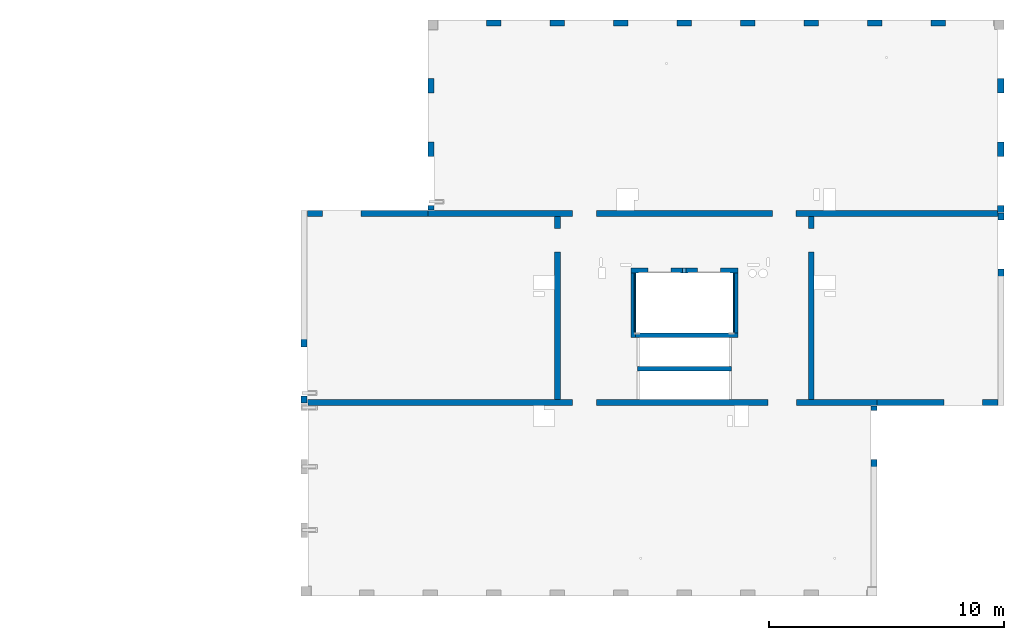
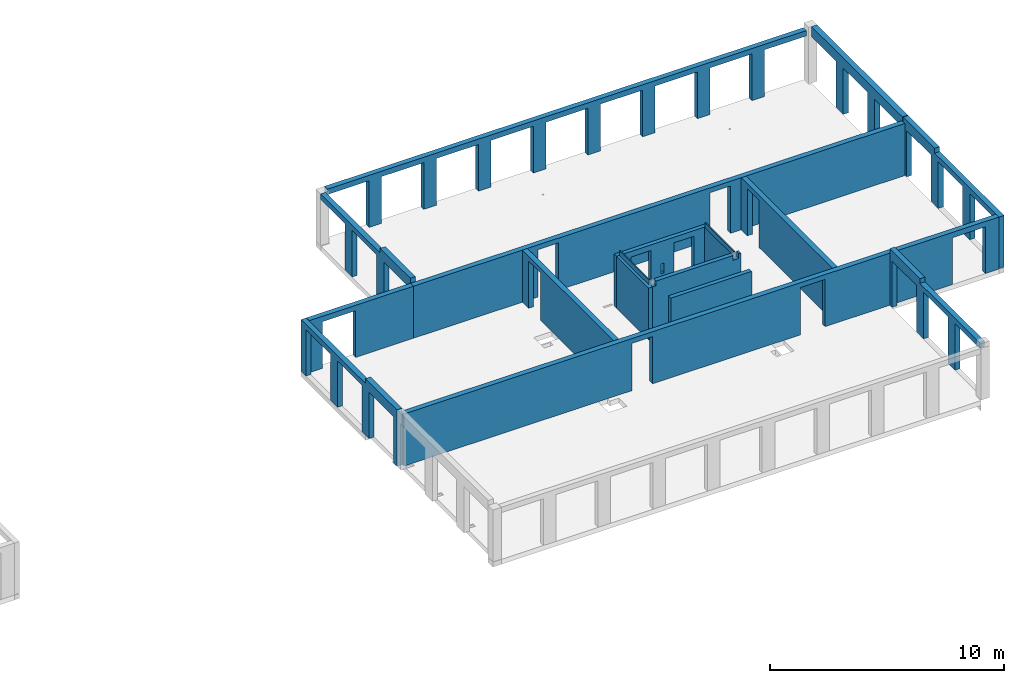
# One storey, part 4 of 8: 19 walls, 42 openings.
"""IFC2X3 building model written with IfcOpenShell, lengths in millimetres."""

from ifc_helpers import new_model, entity, si_unit, converted_unit, derived_unit, direction, frame, frame_2d, origin, place, context, subcontext, project, spatial, rectangle, extrude, material, layer, layer_set, layer_usage, type_object, element, save


model = new_model("IFC2X3")

# Units and contexts
model_context = context("Model", 3, precision=0.01, world=origin(), true_north=direction((6.12303176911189e-17, 1.0)))
body_context = subcontext(model_context, "Body", "Model", "MODEL_VIEW")
ifc_project = project(units=[si_unit("LENGTHUNIT", "METRE", prefix="MILLI"), si_unit("AREAUNIT", "SQUARE_METRE"), si_unit("VOLUMEUNIT", "CUBIC_METRE"), converted_unit("PLANEANGLEUNIT", "DEGREE", entity("IfcRatioMeasure", 0.0174532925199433), si_unit("PLANEANGLEUNIT", "RADIAN"), dimensions=[0, 0, 0, 0, 0, 0, 0]), si_unit("MASSUNIT", "GRAM", prefix="KILO"), derived_unit("MASSDENSITYUNIT", [(si_unit("MASSUNIT", "GRAM", prefix="KILO"), 1), (si_unit("LENGTHUNIT", "METRE"), -3)]), si_unit("TIMEUNIT", "SECOND"), si_unit("FREQUENCYUNIT", "HERTZ"), si_unit("THERMODYNAMICTEMPERATUREUNIT", "DEGREE_CELSIUS"), derived_unit("THERMALTRANSMITTANCEUNIT", [(si_unit("MASSUNIT", "GRAM", prefix="KILO"), 1), (si_unit("THERMODYNAMICTEMPERATUREUNIT", "KELVIN"), -1), (si_unit("TIMEUNIT", "SECOND"), -3)]), derived_unit("VOLUMETRICFLOWRATEUNIT", [(si_unit("LENGTHUNIT", "METRE"), 3), (si_unit("TIMEUNIT", "SECOND"), -1)]), si_unit("ELECTRICCURRENTUNIT", "AMPERE"), si_unit("ELECTRICVOLTAGEUNIT", "VOLT"), si_unit("POWERUNIT", "WATT"), si_unit("FORCEUNIT", "NEWTON", prefix="KILO"), si_unit("ILLUMINANCEUNIT", "LUX"), si_unit("LUMINOUSFLUXUNIT", "LUMEN"), si_unit("LUMINOUSINTENSITYUNIT", "CANDELA"), derived_unit("USERDEFINED", [(si_unit("MASSUNIT", "GRAM", prefix="KILO"), -1), (si_unit("LENGTHUNIT", "METRE"), -2), (si_unit("TIMEUNIT", "SECOND"), 3), (si_unit("LUMINOUSFLUXUNIT", "LUMEN"), 1)]), derived_unit("LINEARVELOCITYUNIT", [(si_unit("LENGTHUNIT", "METRE"), 1), (si_unit("TIMEUNIT", "SECOND"), -1)]), si_unit("PRESSUREUNIT", "PASCAL"), derived_unit("USERDEFINED", [(si_unit("LENGTHUNIT", "METRE"), -2), (si_unit("MASSUNIT", "GRAM", prefix="KILO"), 1), (si_unit("TIMEUNIT", "SECOND"), -2)])], contexts=[model_context])

# Site, building, storey
site_placement = place(None, origin())
site = spatial("IfcSite", under=ifc_project, at=site_placement, Name="Default", CompositionType="ELEMENT")
building_placement = place(site_placement, origin())
building = spatial("IfcBuilding", under=site, at=building_placement, Name="niet gebruiken", CompositionType="ELEMENT")
storey_placement = place(building_placement, frame((0.0, 0.0, 39330.0)))
storey = spatial("IfcBuildingStorey", under=building, at=storey_placement, Name="13 dertiende verdieping", CompositionType="ELEMENT", Elevation=39330.0)

# Wall, openings
ifc_material_1 = material(Name="NLRS_f2_beton ihwg")
ifc_layer_1 = layer(ifc_material_1, 250.0)
ifc_layer_set_1 = layer_set([ifc_layer_1], Name="Basic Wall:NLRS_22.21_WA_beton ihwg d=250_gen")
ifc_layer_usage_1 = layer_usage(ifc_layer_set_1, "AXIS2", "NEGATIVE", 125.0)
wall_type_1 = type_object("IfcWallType", Name="Basic Wall:NLRS_22.21_WA_beton ihwg d=250_gen", PredefinedType="STANDARD", material=ifc_layer_set_1)
wall_1_placement = place(storey_placement, frame((75770.0, 36981.0, -90.0)))
wall_1 = element("IfcWallStandardCase", 1, at=wall_1_placement, inside=storey, type_object=wall_type_1, material=ifc_layer_usage_1, Name="Basic Wall:NLRS_22.21_WA_beton ihwg d=250_gen", ObjectType="Basic Wall:NLRS_22.21_WA_beton ihwg d=250_gen", context=body_context, shape_type="SweptSolid", body=[
    extrude(rectangle(XDim=24230.0000000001, YDim=250.000000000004, at=frame_2d((12115.0, 0.0), x_axis=(-1.0, 0.0))), origin(), (0.0, 0.0, 1.0), 2719.99999999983),
])
opening_1_placement = place(wall_1_placement, origin())
element("IfcOpeningElement", 2, at=opening_1_placement, cuts=wall_1, Name="Basic Wall:NLRS_22.21_WA_beton ihwg d=250_gen", ObjectType="Opening", context=body_context, shape_type="SweptSolid", body=[
    extrude(rectangle(XDim=2470.0, YDim=1225.0, at=frame_2d((-8.69704308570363e-12, 4.43378667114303e-12), x_axis=(0.0, 1.0))), frame((20192.5000000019, -1399.0, 1235.0), z_axis=(0.0, 1.0, 0.0), x_axis=(-1.0, 0.0, 0.0)), (0.0, 0.0, 1.0), 3048.0),
])
opening_2_placement = place(wall_1_placement, origin())
element("IfcOpeningElement", 3, at=opening_2_placement, cuts=wall_1, Name="Basic Wall:NLRS_22.21_WA_beton ihwg d=250_gen", ObjectType="Opening", context=body_context, shape_type="SweptSolid", body=[
    extrude(rectangle(XDim=2470.0, YDim=1006.0, at=frame_2d((8.66862137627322e-12, -4.43378667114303e-12), x_axis=(0.0, 1.0))), frame((11782.0, -1399.0, 1235.0), z_axis=(0.0, 1.0, 0.0), x_axis=(-1.0, 0.0, 0.0)), (0.0, 0.0, 1.0), 3048.0),
])
opening_3_placement = place(wall_1_placement, origin())
element("IfcOpeningElement", 4, at=opening_3_placement, cuts=wall_1, Name="Basic Wall:NLRS_22.21_WA_beton ihwg d=250_gen", ObjectType="Recess", context=body_context, shape_type="SweptSolid", body=[
    extrude(rectangle(XDim=55000.0, YDim=19.9999999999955, at=frame_2d((0.0, 4.33164615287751e-12), x_axis=(1.0, 0.0))), frame((10.0, -140.0, 770.0), z_axis=(0.0, 1.0, 0.0), x_axis=(0.0, 0.0, -1.0)), (0.0, 0.0, 1.0), 124.999999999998),
])

# Wall, opening
ifc_layer_usage_2 = layer_usage(ifc_layer_set_1, "AXIS2", "NEGATIVE", 125.0)
wall_2_placement = place(storey_placement, frame((75770.0, 45031.0, -90.0)))
wall_2 = element("IfcWallStandardCase", 5, at=wall_2_placement, inside=storey, type_object=wall_type_1, material=ifc_layer_usage_2, Name="Basic Wall:NLRS_22.21_WA_beton ihwg d=250_gen", ObjectType="Basic Wall:NLRS_22.21_WA_beton ihwg d=250_gen", context=body_context, shape_type="SweptSolid", body=[
    extrude(rectangle(XDim=5130.0, YDim=249.999999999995, at=frame_2d((2565.0, 0.0), x_axis=(-1.0, 0.0))), origin(), (0.0, 0.0, 1.0), 2719.99999999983),
])
opening_4_placement = place(wall_2_placement, origin())
element("IfcOpeningElement", 6, at=opening_4_placement, cuts=wall_2, Name="Basic Wall:NLRS_22.21_WA_beton ihwg d=250_gen", ObjectType="Opening", context=body_context, shape_type="SweptSolid", body=[
    extrude(rectangle(XDim=2440.0, YDim=1640.0, at=frame_2d((0.0, 4.37694325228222e-12), x_axis=(1.0, 0.0))), frame((1460.0, -1649.0, 1220.0), z_axis=(0.0, 1.0, 0.0), x_axis=(0.0, 0.0, 1.0)), (0.0, 0.0, 1.0), 3048.0),
])

ifc_layer_usage_3 = layer_usage(ifc_layer_set_1, "AXIS2", "NEGATIVE", 125.0)
wall_3_placement = place(storey_placement, frame((86400.0, 44906.0, -90.0), z_axis=(0.0, 0.0, 1.0), x_axis=(0.0, -1.0, 0.0)))
wall_3 = element("IfcWallStandardCase", 7, at=wall_3_placement, inside=storey, type_object=wall_type_1, material=ifc_layer_usage_3, Name="Basic Wall:NLRS_22.21_WA_beton ihwg d=250_gen", ObjectType="Basic Wall:NLRS_22.21_WA_beton ihwg d=250_gen", context=body_context, shape_type="SweptSolid", body=[
    extrude(rectangle(XDim=7799.99999999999, YDim=250.000000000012, at=frame_2d((3900.0, 0.0), x_axis=(-1.0, 0.0))), origin(), (0.0, 0.0, 1.0), 2719.99999999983),
])
opening_5_placement = place(wall_3_placement, origin())
element("IfcOpeningElement", 8, at=opening_5_placement, cuts=wall_3, Name="Basic Wall:NLRS_22.21_WA_beton ihwg d=250_gen", ObjectType="Opening", context=body_context, shape_type="SweptSolid", body=[
    extrude(rectangle(XDim=2470.0, YDim=1006.0, at=frame_2d((-4.43378667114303e-12, 0.0), x_axis=(1.0, 0.0))), frame((1027.0, -1649.0, 1235.0), z_axis=(0.0, 1.0, 0.0), x_axis=(0.0, 0.0, 1.0)), (0.0, 0.0, 1.0), 3048.0),
])

ifc_layer_usage_4 = layer_usage(ifc_layer_set_1, "AXIS2", "NEGATIVE", 125.0)
wall_4_placement = place(storey_placement, frame((97200.0, 44906.0, -90.0), z_axis=(0.0, 0.0, 1.0), x_axis=(0.0, -1.0, 0.0)))
wall_4 = element("IfcWallStandardCase", 9, at=wall_4_placement, inside=storey, type_object=wall_type_1, material=ifc_layer_usage_4, Name="Basic Wall:NLRS_22.21_WA_beton ihwg d=250_gen", ObjectType="Basic Wall:NLRS_22.21_WA_beton ihwg d=250_gen", context=body_context, shape_type="SweptSolid", body=[
    extrude(rectangle(XDim=7799.99999999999, YDim=250.000000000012, at=frame_2d((3900.0, 0.0), x_axis=(-1.0, 0.0))), origin(), (0.0, 0.0, 1.0), 2719.99999999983),
])
opening_6_placement = place(wall_4_placement, origin())
element("IfcOpeningElement", 10, at=opening_6_placement, cuts=wall_4, Name="Basic Wall:NLRS_22.21_WA_beton ihwg d=250_gen", ObjectType="Opening", context=body_context, shape_type="SweptSolid", body=[
    extrude(rectangle(XDim=2470.0, YDim=1006.0, at=frame_2d((4.43378667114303e-12, 0.0), x_axis=(1.0, 0.0))), frame((1027.0, -1649.0, 1235.0), z_axis=(0.0, 1.0, 0.0), x_axis=(0.0, 0.0, 1.0)), (0.0, 0.0, 1.0), 3048.0),
])

# Wall, openings
ifc_layer_usage_5 = layer_usage(ifc_layer_set_1, "AXIS2", "NEGATIVE", 125.0)
wall_5_placement = place(storey_placement, frame((80900.0, 45031.0, -90.0)))
wall_5 = element("IfcWallStandardCase", 11, at=wall_5_placement, inside=storey, type_object=wall_type_1, material=ifc_layer_usage_5, Name="Basic Wall:NLRS_22.21_WA_beton ihwg d=250_gen", ObjectType="Basic Wall:NLRS_22.21_WA_beton ihwg d=250_gen", context=body_context, shape_type="SweptSolid", body=[
    extrude(rectangle(XDim=24250.0, YDim=249.999999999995, at=frame_2d((12125.0, 0.0), x_axis=(-1.0, 0.0))), origin(), (0.0, 0.0, 1.0), 2719.99999999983),
])
opening_7_placement = place(wall_5_placement, origin())
element("IfcOpeningElement", 12, at=opening_7_placement, cuts=wall_5, Name="Basic Wall:NLRS_22.21_WA_beton ihwg d=250_gen", ObjectType="Opening", context=body_context, shape_type="SweptSolid", body=[
    extrude(rectangle(XDim=2470.0, YDim=1006.0, at=frame_2d((4.43378667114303e-12, 8.66862137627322e-12), x_axis=(1.0, 0.0))), frame((15148.0, -1649.0, 1235.0), z_axis=(0.0, 1.0, 0.0), x_axis=(0.0, 0.0, 1.0)), (0.0, 0.0, 1.0), 3048.0),
])
opening_8_placement = place(wall_5_placement, origin())
element("IfcOpeningElement", 13, at=opening_8_placement, cuts=wall_5, Name="Basic Wall:NLRS_22.21_WA_beton ihwg d=250_gen", ObjectType="Opening", context=body_context, shape_type="SweptSolid", body=[
    extrude(rectangle(XDim=2470.0, YDim=1006.0, at=frame_2d((-4.43378667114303e-12, 8.66862137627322e-12), x_axis=(1.0, 0.0))), frame((6652.0, -1649.0, 1235.0), z_axis=(0.0, 1.0, 0.0), x_axis=(0.0, 0.0, 1.0)), (0.0, 0.0, 1.0), 3048.0),
])

# Wall, opening
ifc_layer_usage_6 = layer_usage(ifc_layer_set_1, "AXIS2", "NEGATIVE", 125.0)
wall_6_placement = place(storey_placement, frame((100000.0, 36981.0, -90.0)))
wall_6 = element("IfcWallStandardCase", 14, at=wall_6_placement, inside=storey, type_object=wall_type_1, material=ifc_layer_usage_6, Name="Basic Wall:NLRS_22.21_WA_beton ihwg d=250_gen", ObjectType="Basic Wall:NLRS_22.21_WA_beton ihwg d=250_gen", context=body_context, shape_type="SweptSolid", body=[
    extrude(rectangle(XDim=5149.99999999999, YDim=250.000000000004, at=frame_2d((2575.0, 0.0), x_axis=(-1.0, 0.0))), origin(), (0.0, 0.0, 1.0), 2719.99999999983),
])
opening_9_placement = place(wall_6_placement, origin())
element("IfcOpeningElement", 15, at=opening_9_placement, cuts=wall_6, Name="Basic Wall:NLRS_22.21_WA_beton ihwg d=250_gen", ObjectType="Opening", context=body_context, shape_type="SweptSolid", body=[
    extrude(rectangle(XDim=2440.0, YDim=1639.99999999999, at=frame_2d((-8.69704308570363e-12, 0.0), x_axis=(0.0, 1.0))), frame((3670.0, -1399.0, 1220.0), z_axis=(0.0, 1.0, 0.0), x_axis=(-1.0, 0.0, 0.0)), (0.0, 0.0, 1.0), 3048.0),
])

# Wall, openings
ifc_material_2 = material(Name="NLRS_f2_beton prefab")
ifc_layer_2 = layer(ifc_material_2, 250.0)
ifc_layer_set_2 = layer_set([ifc_layer_2], Name="Basic Wall:NLRS_21.21_WA_beton prefab d=250_gen")
ifc_layer_usage_7 = layer_usage(ifc_layer_set_2, "AXIS2", "NEGATIVE", 125.0)
wall_type_2 = type_object("IfcWallType", Name="Basic Wall:NLRS_21.21_WA_beton prefab d=250_gen", PredefinedType="STANDARD", material=ifc_layer_set_2)
wall_7_placement = place(storey_placement, frame((75625.0, 45156.0, -70.0), z_axis=(0.0, 0.0, 1.0), x_axis=(0.0, -1.0, 0.0)))
wall_7 = element("IfcWallStandardCase", 16, at=wall_7_placement, inside=storey, type_object=wall_type_2, material=ifc_layer_usage_7, Name="Basic Wall:NLRS_21.21_WA_beton prefab d=250_gen", ObjectType="Basic Wall:NLRS_21.21_WA_beton prefab d=250_gen", context=body_context, shape_type="SweptSolid", body=[
    extrude(rectangle(XDim=8189.99999999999, YDim=249.999999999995, at=frame_2d((4095.0, 0.0), x_axis=(-1.0, 0.0))), origin(), (0.0, 0.0, 1.0), 2949.99999999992),
])
opening_10_placement = place(wall_7_placement, origin())
element("IfcOpeningElement", 17, at=opening_10_placement, cuts=wall_7, Name="Basic Wall:NLRS_21.21_WA_beton prefab d=250_gen", ObjectType="Opening", context=body_context, shape_type="SweptSolid", body=[
    extrude(rectangle(XDim=2420.0, YDim=2080.0, at=frame_2d((0.0, 0.0), x_axis=(0.0, 1.0))), frame((1450.0, -1399.0, 1210.0), z_axis=(0.0, 1.0, 0.0), x_axis=(-1.0, 0.0, 0.0)), (0.0, 0.0, 1.0), 3048.0),
])
opening_11_placement = place(wall_7_placement, origin())
element("IfcOpeningElement", 18, at=opening_11_placement, cuts=wall_7, Name="Basic Wall:NLRS_21.21_WA_beton prefab d=250_gen", ObjectType="Opening", context=body_context, shape_type="SweptSolid", body=[
    extrude(rectangle(XDim=2420.0, YDim=2080.0, at=frame_2d((0.0, 0.0), x_axis=(0.0, 1.0))), frame((4150.0, -1399.0, 1210.0), z_axis=(0.0, 1.0, 0.0), x_axis=(-1.0, 0.0, 0.0)), (0.0, 0.0, 1.0), 3048.0),
])
opening_12_placement = place(wall_7_placement, origin())
element("IfcOpeningElement", 19, at=opening_12_placement, cuts=wall_7, Name="Basic Wall:NLRS_21.21_WA_beton prefab d=250_gen", ObjectType="Opening", context=body_context, shape_type="SweptSolid", body=[
    extrude(rectangle(XDim=2420.0, YDim=2080.0, at=frame_2d((0.0, 0.0), x_axis=(0.0, 1.0))), frame((6850.0, -1399.0, 1210.0), z_axis=(0.0, 1.0, 0.0), x_axis=(-1.0, 0.0, 0.0)), (0.0, 0.0, 1.0), 3048.0),
])
opening_13_placement = place(wall_7_placement, origin())
element("IfcOpeningElement", 20, at=opening_13_placement, cuts=wall_7, Name="Basic Wall:NLRS_21.21_WA_beton prefab d=250_gen", ObjectType="Opening", context=body_context, shape_type="SweptSolid", body=[
    extrude(rectangle(XDim=250.000000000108, YDim=5499.99999999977, at=frame_2d((0.0, -4.32720526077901e-12), x_axis=(0.0, 1.0))), frame((2750.0, 125.0, 2825.0), z_axis=(0.0, -1.0, 0.0), x_axis=(-1.0, 0.0, 0.0)), (0.0, 0.0, 1.0), 250.0),
])

ifc_layer_usage_8 = layer_usage(ifc_layer_set_2, "AXIS2", "NEGATIVE", 125.0)
wall_8_placement = place(storey_placement, frame((81025.0, 52846.0, -70.0), z_axis=(0.0, 0.0, 1.0), x_axis=(0.0, -1.0, 0.0)))
wall_8 = element("IfcWallStandardCase", 21, at=wall_8_placement, inside=storey, type_object=wall_type_2, material=ifc_layer_usage_8, Name="Basic Wall:NLRS_21.21_WA_beton prefab d=250_gen", ObjectType="Basic Wall:NLRS_21.21_WA_beton prefab d=250_gen", context=body_context, shape_type="SweptSolid", body=[
    extrude(rectangle(XDim=7670.00000000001, YDim=250.000000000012, at=frame_2d((3835.0, 0.0), x_axis=(-1.0, 0.0))), origin(), (0.0, 0.0, 1.0), 2949.99999999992),
])
opening_14_placement = place(wall_8_placement, origin())
element("IfcOpeningElement", 22, at=opening_14_placement, cuts=wall_8, Name="Basic Wall:NLRS_21.21_WA_beton prefab d=250_gen", ObjectType="Opening", context=body_context, shape_type="SweptSolid", body=[
    extrude(rectangle(XDim=2420.0, YDim=2080.0, at=frame_2d((0.0, 0.0), x_axis=(0.0, 1.0))), frame((1040.0, -1399.0, 1210.0), z_axis=(0.0, 1.0, 0.0), x_axis=(-1.0, 0.0, 0.0)), (0.0, 0.0, 1.0), 3048.0),
])
opening_15_placement = place(wall_8_placement, origin())
element("IfcOpeningElement", 23, at=opening_15_placement, cuts=wall_8, Name="Basic Wall:NLRS_21.21_WA_beton prefab d=250_gen", ObjectType="Opening", context=body_context, shape_type="SweptSolid", body=[
    extrude(rectangle(XDim=2420.0, YDim=2080.0, at=frame_2d((0.0, 0.0), x_axis=(0.0, 1.0))), frame((3740.0, -1399.0, 1210.0), z_axis=(0.0, 1.0, 0.0), x_axis=(-1.0, 0.0, 0.0)), (0.0, 0.0, 1.0), 3048.0),
])
opening_16_placement = place(wall_8_placement, origin())
element("IfcOpeningElement", 24, at=opening_16_placement, cuts=wall_8, Name="Basic Wall:NLRS_21.21_WA_beton prefab d=250_gen", ObjectType="Opening", context=body_context, shape_type="SweptSolid", body=[
    extrude(rectangle(XDim=2420.0, YDim=2080.0, at=frame_2d((0.0, 0.0), x_axis=(0.0, 1.0))), frame((6440.0, -1399.0, 1210.0), z_axis=(0.0, 1.0, 0.0), x_axis=(-1.0, 0.0, 0.0)), (0.0, 0.0, 1.0), 3048.0),
])
opening_17_placement = place(wall_8_placement, origin())
element("IfcOpeningElement", 25, at=opening_17_placement, cuts=wall_8, Name="Basic Wall:NLRS_21.21_WA_beton prefab d=250_gen", ObjectType="Opening", context=body_context, shape_type="SweptSolid", body=[
    extrude(rectangle(XDim=250.000000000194, YDim=5089.99999999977, at=frame_2d((4.32009983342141e-12, 4.32720526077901e-12), x_axis=(0.0, 1.0))), frame((2545.0, 125.0, 2825.0), z_axis=(0.0, -1.0, 0.0), x_axis=(-1.0, 0.0, 0.0)), (0.0, 0.0, 1.0), 250.0),
])

ifc_layer_usage_9 = layer_usage(ifc_layer_set_2, "AXIS2", "NEGATIVE", 125.0)
wall_9_placement = place(storey_placement, frame((105275.0, 45046.0, -70.0), z_axis=(0.0, 0.0, 1.0), x_axis=(0.0, -1.0, 0.0)))
wall_9 = element("IfcWallStandardCase", 26, at=wall_9_placement, inside=storey, type_object=wall_type_2, material=ifc_layer_usage_9, Name="Basic Wall:NLRS_21.21_WA_beton prefab d=250_gen", ObjectType="Basic Wall:NLRS_21.21_WA_beton prefab d=250_gen", context=body_context, shape_type="SweptSolid", body=[
    extrude(rectangle(XDim=8189.99999999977, YDim=250.000000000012, at=frame_2d((4094.99999999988, 0.0), x_axis=(-1.0, 0.0))), origin(), (0.0, 0.0, 1.0), 2949.99999999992),
])
opening_18_placement = place(wall_9_placement, origin())
element("IfcOpeningElement", 27, at=opening_18_placement, cuts=wall_9, Name="Basic Wall:NLRS_21.21_WA_beton prefab d=250_gen", ObjectType="Opening", context=body_context, shape_type="SweptSolid", body=[
    extrude(rectangle(XDim=2420.0, YDim=2080.0, at=frame_2d((0.0, 0.0), x_axis=(0.0, 1.0))), frame((1340.0, -1399.0, 1210.0), z_axis=(0.0, 1.0, 0.0), x_axis=(-1.0, 0.0, 0.0)), (0.0, 0.0, 1.0), 3048.0),
])
opening_19_placement = place(wall_9_placement, origin())
element("IfcOpeningElement", 28, at=opening_19_placement, cuts=wall_9, Name="Basic Wall:NLRS_21.21_WA_beton prefab d=250_gen", ObjectType="Opening", context=body_context, shape_type="SweptSolid", body=[
    extrude(rectangle(XDim=2420.0, YDim=2080.0, at=frame_2d((0.0, 0.0), x_axis=(0.0, 1.0))), frame((4040.0, -1399.0, 1210.0), z_axis=(0.0, 1.0, 0.0), x_axis=(-1.0, 0.0, 0.0)), (0.0, 0.0, 1.0), 3048.0),
])
opening_20_placement = place(wall_9_placement, origin())
element("IfcOpeningElement", 29, at=opening_20_placement, cuts=wall_9, Name="Basic Wall:NLRS_21.21_WA_beton prefab d=250_gen", ObjectType="Opening", context=body_context, shape_type="SweptSolid", body=[
    extrude(rectangle(XDim=2420.0, YDim=2080.0, at=frame_2d((0.0, 0.0), x_axis=(0.0, 1.0))), frame((6740.0, -1399.0, 1210.0), z_axis=(0.0, 1.0, 0.0), x_axis=(-1.0, 0.0, 0.0)), (0.0, 0.0, 1.0), 3048.0),
])
opening_21_placement = place(wall_9_placement, origin())
element("IfcOpeningElement", 30, at=opening_21_placement, cuts=wall_9, Name="Basic Wall:NLRS_21.21_WA_beton prefab d=250_gen", ObjectType="Opening", context=body_context, shape_type="SweptSolid", body=[
    extrude(rectangle(XDim=249.999999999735, YDim=5500.0000000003, at=frame_2d((0.0, 4.32009983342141e-12), x_axis=(1.0, 0.0))), frame((5440.0, 125.0, 2825.0), z_axis=(0.0, -1.0, 0.0), x_axis=(0.0, 0.0, 1.0)), (0.0, 0.0, 1.0), 250.0),
])

ifc_layer_usage_10 = layer_usage(ifc_layer_set_2, "AXIS2", "NEGATIVE", 125.0)
wall_10_placement = place(storey_placement, frame((99875.0, 29166.0, -70.0), z_axis=(0.0, 0.0, 1.0), x_axis=(0.0, 1.0, 0.0)))
wall_10 = element("IfcWallStandardCase", 31, at=wall_10_placement, inside=storey, type_object=wall_type_2, material=ifc_layer_usage_10, Name="Basic Wall:NLRS_21.21_WA_beton prefab d=250_gen", ObjectType="Basic Wall:NLRS_21.21_WA_beton prefab d=250_gen", context=body_context, shape_type="SweptSolid", body=[
    extrude(rectangle(XDim=7669.99999999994, YDim=250.000000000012, at=frame_2d((3834.99999999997, 0.0), x_axis=(-1.0, 0.0))), origin(), (0.0, 0.0, 1.0), 2949.99999999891),
])
opening_22_placement = place(wall_10_placement, origin())
element("IfcOpeningElement", 32, at=opening_22_placement, cuts=wall_10, Name="Basic Wall:NLRS_21.21_WA_beton prefab d=250_gen", ObjectType="Opening", context=body_context, shape_type="SweptSolid", body=[
    extrude(rectangle(XDim=2420.0, YDim=2080.0, at=frame_2d((-2.1600499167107e-12, 0.0), x_axis=(0.0, 1.0))), frame((1040.0, -1399.0, 1210.0), z_axis=(0.0, 1.0, 0.0), x_axis=(-1.0, 0.0, 0.0)), (0.0, 0.0, 1.0), 3048.0),
])
opening_23_placement = place(wall_10_placement, origin())
element("IfcOpeningElement", 33, at=opening_23_placement, cuts=wall_10, Name="Basic Wall:NLRS_21.21_WA_beton prefab d=250_gen", ObjectType="Opening", context=body_context, shape_type="SweptSolid", body=[
    extrude(rectangle(XDim=2420.0, YDim=2080.0, at=frame_2d((2.1600499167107e-12, 0.0), x_axis=(0.0, 1.0))), frame((6440.0, -1399.0, 1210.0), z_axis=(0.0, 1.0, 0.0), x_axis=(-1.0, 0.0, 0.0)), (0.0, 0.0, 1.0), 3048.0),
])
opening_24_placement = place(wall_10_placement, origin())
element("IfcOpeningElement", 34, at=opening_24_placement, cuts=wall_10, Name="Basic Wall:NLRS_21.21_WA_beton prefab d=250_gen", ObjectType="Opening", context=body_context, shape_type="SweptSolid", body=[
    extrude(rectangle(XDim=2420.0, YDim=2080.0, at=frame_2d((2.1600499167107e-12, 0.0), x_axis=(0.0, 1.0))), frame((3740.0, -1399.0, 1210.0), z_axis=(0.0, 1.0, 0.0), x_axis=(-1.0, 0.0, 0.0)), (0.0, 0.0, 1.0), 3048.0),
])
opening_25_placement = place(wall_10_placement, origin())
element("IfcOpeningElement", 35, at=opening_25_placement, cuts=wall_10, Name="Basic Wall:NLRS_21.21_WA_beton prefab d=250_gen", ObjectType="Opening", context=body_context, shape_type="SweptSolid", body=[
    extrude(rectangle(XDim=249.999999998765, YDim=5090.00000000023, at=frame_2d((0.0, 0.0), x_axis=(0.0, 1.0))), frame((2545.0, 125.0, 2825.0), z_axis=(0.0, -1.0, 0.0), x_axis=(-1.0, 0.0, 0.0)), (0.0, 0.0, 1.0), 250.0),
])

# Wall
ifc_layer_3 = layer(ifc_material_2, 200.0)
ifc_layer_set_3 = layer_set([ifc_layer_3], Name="Basic Wall:NLRS_21.21_WA_beton prefab d=200_gen")
ifc_layer_usage_11 = layer_usage(ifc_layer_set_3, "AXIS2", "NEGATIVE", 100.0)
wall_type_3 = type_object("IfcWallType", Name="Basic Wall:NLRS_21.21_WA_beton prefab d=200_gen", PredefinedType="STANDARD", material=ifc_layer_set_3)
wall_11_placement = place(storey_placement, frame((89800.0, 38426.0, -70.0)))
element("IfcWallStandardCase", 36, at=wall_11_placement, inside=storey, type_object=wall_type_3, material=ifc_layer_usage_11, Name="Basic Wall:NLRS_21.21_WA_beton prefab d=200_gen", ObjectType="Basic Wall:NLRS_21.21_WA_beton prefab d=200_gen", context=body_context, shape_type="SweptSolid", body=[
    extrude(rectangle(XDim=3999.99999999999, YDim=199.999999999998, at=frame_2d((2000.0, 0.0), x_axis=(-1.0, 0.0))), origin(), (0.0, 0.0, 1.0), 2950.00000000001),
])

# Wall, openings
ifc_layer_4 = layer(ifc_material_2, 200.0)
ifc_layer_set_4 = layer_set([ifc_layer_4], Name="Basic Wall:NLRS_22.21_WA_beton prefab d=200_gen")
ifc_layer_usage_12 = layer_usage(ifc_layer_set_4, "AXIS2", "NEGATIVE", 100.0)
wall_type_4 = type_object("IfcWallType", Name="Basic Wall:NLRS_22.21_WA_beton prefab d=200_gen", PredefinedType="STANDARD", material=ifc_layer_set_4)
wall_12_placement = place(storey_placement, frame((89525.0, 42596.0, -70.0)))
wall_12 = element("IfcWallStandardCase", 37, at=wall_12_placement, inside=storey, type_object=wall_type_4, material=ifc_layer_usage_12, Name="Basic Wall:NLRS_22.21_WA_beton prefab d=200_gen", ObjectType="Basic Wall:NLRS_22.21_WA_beton prefab d=200_gen", context=body_context, shape_type="SweptSolid", body=[
    extrude(rectangle(XDim=4550.00000000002, YDim=200.000000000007, at=frame_2d((2275.00000000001, 7.8159700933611e-13), x_axis=(-1.0, 0.0))), origin(), (0.0, 0.0, 1.0), 2700.00000000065),
])
opening_26_placement = place(wall_12_placement, origin())
element("IfcOpeningElement", 38, at=opening_26_placement, cuts=wall_12, Name="Basic Wall:NLRS_22.21_WA_beton prefab d=200_gen", ObjectType="Opening", context=body_context, shape_type="SweptSolid", body=[
    extrude(rectangle(XDim=2430.0, YDim=980.000000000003, at=frame_2d((0.0, -8.66862137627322e-12), x_axis=(1.0, 0.0))), frame((1219.99984910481, -1624.0, 1195.0), z_axis=(0.0, 1.0, 0.0), x_axis=(0.0, 0.0, 1.0)), (0.0, 0.0, 1.0), 3048.0),
])
opening_27_placement = place(wall_12_placement, origin())
element("IfcOpeningElement", 39, at=opening_27_placement, cuts=wall_12, Name="Basic Wall:NLRS_22.21_WA_beton prefab d=200_gen", ObjectType="Opening", context=body_context, shape_type="SweptSolid", body=[
    extrude(rectangle(XDim=2430.0, YDim=980.000000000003, at=frame_2d((0.0, -8.66862137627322e-12), x_axis=(1.0, 0.0))), frame((3329.99984910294, -1624.0, 1195.0), z_axis=(0.0, 1.0, 0.0), x_axis=(0.0, 0.0, 1.0)), (0.0, 0.0, 1.0), 3048.0),
])
opening_28_placement = place(wall_12_placement, origin())
element("IfcOpeningElement", 40, at=opening_28_placement, cuts=wall_12, Name="Basic Wall:NLRS_22.21_WA_beton prefab d=200_gen", ObjectType="Opening", context=body_context, shape_type="SweptSolid", body=[
    extrude(rectangle(XDim=505.000000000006, YDim=135.000000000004, at=frame_2d((-4.33431068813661e-12, -8.66151594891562e-12), x_axis=(1.0, 0.0))), frame((2275.0, -1624.0, 1272.49999999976), z_axis=(0.0, 1.0, 0.0), x_axis=(0.0, 0.0, 1.0)), (0.0, 0.0, 1.0), 3048.0),
])

# Wall
ifc_layer_usage_13 = layer_usage(ifc_layer_set_4, "AXIS2", "NEGATIVE", 100.0)
wall_13_placement = place(storey_placement, frame((89625.0, 42496.0, -70.0), z_axis=(0.0, 0.0, 1.0), x_axis=(0.0, -1.0, 0.0)))
element("IfcWallStandardCase", 41, at=wall_13_placement, inside=storey, type_object=wall_type_4, material=ifc_layer_usage_13, Name="Basic Wall:NLRS_22.21_WA_beton prefab d=200_gen", ObjectType="Basic Wall:NLRS_22.21_WA_beton prefab d=200_gen", context=body_context, shape_type="SweptSolid", body=[
    extrude(rectangle(XDim=2749.99999999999, YDim=199.999999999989, at=frame_2d((1375.0, 0.0), x_axis=(-1.0, 0.0))), origin(), (0.0, 0.0, 1.0), 2699.99999999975),
])

# Wall, openings
ifc_layer_usage_14 = layer_usage(ifc_layer_set_4, "AXIS2", "NEGATIVE", 100.0)
wall_14_placement = place(storey_placement, frame((94075.0, 39846.0, -70.0), z_axis=(0.0, 0.0, 1.0), x_axis=(-1.0, 0.0, 0.0)))
wall_14 = element("IfcWallStandardCase", 42, at=wall_14_placement, inside=storey, type_object=wall_type_4, material=ifc_layer_usage_14, Name="Basic Wall:NLRS_22.21_WA_beton prefab d=200_gen", ObjectType="Basic Wall:NLRS_22.21_WA_beton prefab d=200_gen", context=body_context, shape_type="SweptSolid", body=[
    extrude(rectangle(XDim=4350.00000000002, YDim=200.000000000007, at=frame_2d((2175.00000000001, 0.0), x_axis=(-1.0, 0.0))), origin(), (0.0, 0.0, 1.0), 2949.99999999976),
])
opening_29_placement = place(wall_14_placement, origin())
element("IfcOpeningElement", 43, at=opening_29_placement, cuts=wall_14, Name="Basic Wall:NLRS_22.21_WA_beton prefab d=200_gen", ObjectType="Opening", context=body_context, shape_type="SweptSolid", body=[
    extrude(rectangle(XDim=249.999999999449, YDim=274.999967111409, at=frame_2d((-4.33431068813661e-12, 8.65441052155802e-12), x_axis=(1.0, 0.0))), frame((4312.50001644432, 100.0, 2825.0), z_axis=(0.0, -1.0, 0.0), x_axis=(0.0, 0.0, 1.0)), (0.0, 0.0, 1.0), 200.0),
])
opening_30_placement = place(wall_14_placement, origin())
element("IfcOpeningElement", 44, at=opening_30_placement, cuts=wall_14, Name="Basic Wall:NLRS_22.21_WA_beton prefab d=200_gen", ObjectType="Opening", context=body_context, shape_type="SweptSolid", body=[
    extrude(rectangle(XDim=249.999999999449, YDim=274.999967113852, at=frame_2d((0.0, 4.33431068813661e-12), x_axis=(0.0, 1.0))), frame((237.499983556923, 100.0, 2825.0), z_axis=(0.0, -1.0, 0.0), x_axis=(-1.0, 0.0, 0.0)), (0.0, 0.0, 1.0), 200.0),
])

# Wall
ifc_layer_usage_15 = layer_usage(ifc_layer_set_4, "AXIS2", "NEGATIVE", 100.0)
wall_15_placement = place(storey_placement, frame((93975.0, 39946.0, -70.0), z_axis=(0.0, 0.0, 1.0), x_axis=(0.0, 1.0, 0.0)))
element("IfcWallStandardCase", 45, at=wall_15_placement, inside=storey, type_object=wall_type_4, material=ifc_layer_usage_15, Name="Basic Wall:NLRS_22.21_WA_beton prefab d=200_gen", ObjectType="Basic Wall:NLRS_22.21_WA_beton prefab d=200_gen", context=body_context, shape_type="SweptSolid", body=[
    extrude(rectangle(XDim=2549.99999999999, YDim=199.999999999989, at=frame_2d((1275.0, 0.0), x_axis=(-1.0, 0.0))), origin(), (0.0, 0.0, 1.0), 2699.99999999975),
])

# Wall, openings
ifc_layer_5 = layer(ifc_material_1, 250.0)
ifc_layer_set_5 = layer_set([ifc_layer_5], Name="Basic Wall:NLRS_21.21_WA_beton ihwg d=250_gen")
ifc_layer_usage_16 = layer_usage(ifc_layer_set_5, "AXIS2", "NEGATIVE", 125.0)
wall_type_5 = type_object("IfcWallType", Name="Basic Wall:NLRS_21.21_WA_beton ihwg d=250_gen", PredefinedType="STANDARD", material=ifc_layer_set_5)
wall_16_placement = place(storey_placement, frame((104970.0, 53131.0, -90.0), z_axis=(0.0, 0.0, 1.0), x_axis=(-1.0, 0.0, 0.0)))
wall_16 = element("IfcWallStandardCase", 46, at=wall_16_placement, inside=storey, type_object=wall_type_5, material=ifc_layer_usage_16, Name="Basic Wall:NLRS_21.21_WA_beton ihwg d=250_gen", ObjectType="Basic Wall:NLRS_21.21_WA_beton ihwg d=250_gen", context=body_context, shape_type="SweptSolid", body=[
    extrude(rectangle(XDim=23640.0000000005, YDim=249.999999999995, at=frame_2d((11820.0000000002, 5.82645043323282e-13), x_axis=(-1.0, 0.0))), origin(), (0.0, 0.0, 1.0), 2720.00000000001),
])
opening_31_placement = place(wall_16_placement, origin())
element("IfcOpeningElement", 47, at=opening_31_placement, cuts=wall_16, Name="Basic Wall:NLRS_21.21_WA_beton ihwg d=250_gen", ObjectType="Opening", context=body_context, shape_type="SweptSolid", body=[
    extrude(rectangle(XDim=2440.0, YDim=2080.0, at=frame_2d((8.64019966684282e-12, 0.0), x_axis=(0.0, 1.0))), frame((22620.0, -1399.0, 1220.0), z_axis=(0.0, 1.0, 0.0), x_axis=(-1.0, 0.0, 0.0)), (0.0, 0.0, 1.0), 3048.0),
])
opening_32_placement = place(wall_16_placement, origin())
element("IfcOpeningElement", 48, at=opening_32_placement, cuts=wall_16, Name="Basic Wall:NLRS_21.21_WA_beton ihwg d=250_gen", ObjectType="Opening", context=body_context, shape_type="SweptSolid", body=[
    extrude(rectangle(XDim=2440.0, YDim=2080.0, at=frame_2d((-8.64019966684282e-12, 0.0), x_axis=(0.0, 1.0))), frame((19920.0, -1399.0, 1220.0), z_axis=(0.0, 1.0, 0.0), x_axis=(-1.0, 0.0, 0.0)), (0.0, 0.0, 1.0), 3048.0),
])
opening_33_placement = place(wall_16_placement, origin())
element("IfcOpeningElement", 49, at=opening_33_placement, cuts=wall_16, Name="Basic Wall:NLRS_21.21_WA_beton ihwg d=250_gen", ObjectType="Opening", context=body_context, shape_type="SweptSolid", body=[
    extrude(rectangle(XDim=2440.0, YDim=2080.0, at=frame_2d((-8.64019966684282e-12, 0.0), x_axis=(0.0, 1.0))), frame((17220.0, -1399.0, 1220.0), z_axis=(0.0, 1.0, 0.0), x_axis=(-1.0, 0.0, 0.0)), (0.0, 0.0, 1.0), 3048.0),
])
opening_34_placement = place(wall_16_placement, origin())
element("IfcOpeningElement", 50, at=opening_34_placement, cuts=wall_16, Name="Basic Wall:NLRS_21.21_WA_beton ihwg d=250_gen", ObjectType="Opening", context=body_context, shape_type="SweptSolid", body=[
    extrude(rectangle(XDim=2440.0, YDim=2080.0, at=frame_2d((8.64019966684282e-12, 0.0), x_axis=(0.0, 1.0))), frame((14520.0, -1399.0, 1220.0), z_axis=(0.0, 1.0, 0.0), x_axis=(-1.0, 0.0, 0.0)), (0.0, 0.0, 1.0), 3048.0),
])
opening_35_placement = place(wall_16_placement, origin())
element("IfcOpeningElement", 51, at=opening_35_placement, cuts=wall_16, Name="Basic Wall:NLRS_21.21_WA_beton ihwg d=250_gen", ObjectType="Opening", context=body_context, shape_type="SweptSolid", body=[
    extrude(rectangle(XDim=2440.0, YDim=2080.0, at=frame_2d((-8.64019966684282e-12, 0.0), x_axis=(0.0, 1.0))), frame((11820.0, -1399.0, 1220.0), z_axis=(0.0, 1.0, 0.0), x_axis=(-1.0, 0.0, 0.0)), (0.0, 0.0, 1.0), 3048.0),
])
opening_36_placement = place(wall_16_placement, origin())
element("IfcOpeningElement", 52, at=opening_36_placement, cuts=wall_16, Name="Basic Wall:NLRS_21.21_WA_beton ihwg d=250_gen", ObjectType="Opening", context=body_context, shape_type="SweptSolid", body=[
    extrude(rectangle(XDim=2440.0, YDim=2080.0, at=frame_2d((-8.64019966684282e-12, 0.0), x_axis=(0.0, 1.0))), frame((9120.0, -1399.0, 1220.0), z_axis=(0.0, 1.0, 0.0), x_axis=(-1.0, 0.0, 0.0)), (0.0, 0.0, 1.0), 3048.0),
])
opening_37_placement = place(wall_16_placement, origin())
element("IfcOpeningElement", 53, at=opening_37_placement, cuts=wall_16, Name="Basic Wall:NLRS_21.21_WA_beton ihwg d=250_gen", ObjectType="Opening", context=body_context, shape_type="SweptSolid", body=[
    extrude(rectangle(XDim=2440.0, YDim=2080.0, at=frame_2d((8.64019966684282e-12, 0.0), x_axis=(0.0, 1.0))), frame((6420.0, -1399.0, 1220.0), z_axis=(0.0, 1.0, 0.0), x_axis=(-1.0, 0.0, 0.0)), (0.0, 0.0, 1.0), 3048.0),
])
opening_38_placement = place(wall_16_placement, origin())
element("IfcOpeningElement", 54, at=opening_38_placement, cuts=wall_16, Name="Basic Wall:NLRS_21.21_WA_beton ihwg d=250_gen", ObjectType="Opening", context=body_context, shape_type="SweptSolid", body=[
    extrude(rectangle(XDim=2440.0, YDim=2080.0, at=frame_2d((8.64019966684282e-12, 0.0), x_axis=(0.0, 1.0))), frame((3720.0, -1399.0, 1220.0), z_axis=(0.0, 1.0, 0.0), x_axis=(-1.0, 0.0, 0.0)), (0.0, 0.0, 1.0), 3048.0),
])
opening_39_placement = place(wall_16_placement, origin())
element("IfcOpeningElement", 55, at=opening_39_placement, cuts=wall_16, Name="Basic Wall:NLRS_21.21_WA_beton ihwg d=250_gen", ObjectType="Opening", context=body_context, shape_type="SweptSolid", body=[
    extrude(rectangle(XDim=2440.0, YDim=2080.0, at=frame_2d((-8.64019966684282e-12, 0.0), x_axis=(0.0, 1.0))), frame((1020.0, -1399.0, 1220.0), z_axis=(0.0, 1.0, 0.0), x_axis=(-1.0, 0.0, 0.0)), (0.0, 0.0, 1.0), 3048.0),
])

ifc_layer_6 = layer(ifc_material_2, 270.0)
ifc_layer_set_6 = layer_set([ifc_layer_6], Name="Basic Wall:NLRS_21.21_WA_beton prefab d=270_gen")
ifc_layer_usage_17 = layer_usage(ifc_layer_set_6, "AXIS2", "NEGATIVE", 135.0)
wall_type_6 = type_object("IfcWallType", Name="Basic Wall:NLRS_21.21_WA_beton prefab d=270_gen", PredefinedType="STANDARD", material=ifc_layer_set_6)
wall_17_placement = place(storey_placement, frame((105265.0, 52846.0, -70.0), z_axis=(0.0, 0.0, 1.0), x_axis=(0.0, -1.0, 0.0)))
wall_17 = element("IfcWallStandardCase", 56, at=wall_17_placement, inside=storey, type_object=wall_type_6, material=ifc_layer_usage_17, Name="Basic Wall:NLRS_21.21_WA_beton prefab d=270_gen", ObjectType="Basic Wall:NLRS_21.21_WA_beton prefab d=270_gen", context=body_context, shape_type="SweptSolid", body=[
    extrude(rectangle(XDim=7780.00000000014, YDim=270.000000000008, at=frame_2d((3890.00000000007, 0.0), x_axis=(-1.0, 0.0))), origin(), (0.0, 0.0, 1.0), 2949.99999999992),
])
opening_40_placement = place(wall_17_placement, origin())
element("IfcOpeningElement", 57, at=opening_40_placement, cuts=wall_17, Name="Basic Wall:NLRS_21.21_WA_beton prefab d=270_gen", ObjectType="Opening", context=body_context, shape_type="SweptSolid", body=[
    extrude(rectangle(XDim=2420.0, YDim=2080.0, at=frame_2d((0.0, 0.0), x_axis=(0.0, 1.0))), frame((1040.0, -1389.0, 1210.0), z_axis=(0.0, 1.0, 0.0), x_axis=(-1.0, 0.0, 0.0)), (0.0, 0.0, 1.0), 3048.0),
])
opening_41_placement = place(wall_17_placement, origin())
element("IfcOpeningElement", 58, at=opening_41_placement, cuts=wall_17, Name="Basic Wall:NLRS_21.21_WA_beton prefab d=270_gen", ObjectType="Opening", context=body_context, shape_type="SweptSolid", body=[
    extrude(rectangle(XDim=2420.0, YDim=2080.0, at=frame_2d((0.0, 0.0), x_axis=(0.0, 1.0))), frame((3740.0, -1389.0, 1210.0), z_axis=(0.0, 1.0, 0.0), x_axis=(-1.0, 0.0, 0.0)), (0.0, 0.0, 1.0), 3048.0),
])
opening_42_placement = place(wall_17_placement, origin())
element("IfcOpeningElement", 59, at=opening_42_placement, cuts=wall_17, Name="Basic Wall:NLRS_21.21_WA_beton prefab d=270_gen", ObjectType="Opening", context=body_context, shape_type="SweptSolid", body=[
    extrude(rectangle(XDim=2420.0, YDim=2080.0, at=frame_2d((0.0, 0.0), x_axis=(0.0, 1.0))), frame((6440.0, -1389.0, 1210.0), z_axis=(0.0, 1.0, 0.0), x_axis=(-1.0, 0.0, 0.0)), (0.0, 0.0, 1.0), 3048.0),
])

# Walls
ifc_layer_7 = layer(ifc_material_2, 60.0)
ifc_layer_set_7 = layer_set([ifc_layer_7], Name="Basic Wall:NLRS_22.21_WA_beton prefab d=60_gen")
ifc_layer_usage_18 = layer_usage(ifc_layer_set_7, "AXIS2", "NEGATIVE", 30.0)
wall_type_7 = type_object("IfcWallType", Name="Basic Wall:NLRS_22.21_WA_beton prefab d=60_gen", PredefinedType="STANDARD", material=ifc_layer_set_7)
wall_18_placement = place(storey_placement, frame((89695.0, 42476.0, 2630.0), z_axis=(0.0, 0.0, 1.0), x_axis=(0.0, -1.0, 0.0)))
element("IfcWallStandardCase", 60, at=wall_18_placement, inside=storey, type_object=wall_type_7, material=ifc_layer_usage_18, Name="Basic Wall:NLRS_22.21_WA_beton prefab d=60_gen", ObjectType="Basic Wall:NLRS_22.21_WA_beton prefab d=60_gen", context=body_context, shape_type="SweptSolid", body=[
    extrude(rectangle(XDim=2509.99999999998, YDim=59.9999999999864, at=frame_2d((1254.99999999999, 0.0), x_axis=(-1.0, 0.0))), origin(), (0.0, 0.0, 1.0), 250.000000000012),
])
ifc_layer_usage_19 = layer_usage(ifc_layer_set_7, "AXIS2", "POSITIVE", -30.0)
wall_19_placement = place(storey_placement, frame((93905.0, 42476.0, 2630.0), z_axis=(0.0, 0.0, 1.0), x_axis=(0.0, -1.0, 0.0)))
element("IfcWallStandardCase", 61, at=wall_19_placement, inside=storey, type_object=wall_type_7, material=ifc_layer_usage_19, Name="Basic Wall:NLRS_22.21_WA_beton prefab d=60_gen", ObjectType="Basic Wall:NLRS_22.21_WA_beton prefab d=60_gen", context=body_context, shape_type="SweptSolid", body=[
    extrude(rectangle(XDim=2509.99999999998, YDim=59.9999999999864, at=frame_2d((1254.99999999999, 0.0), x_axis=(-1.0, 0.0))), origin(), (0.0, 0.0, 1.0), 250.000000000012),
])

save(model, "model.ifc")
